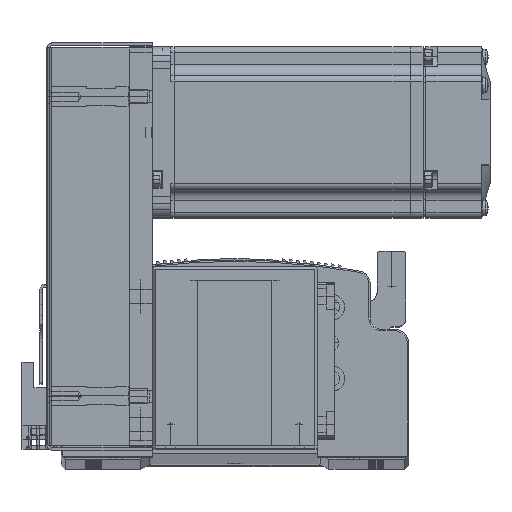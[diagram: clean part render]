
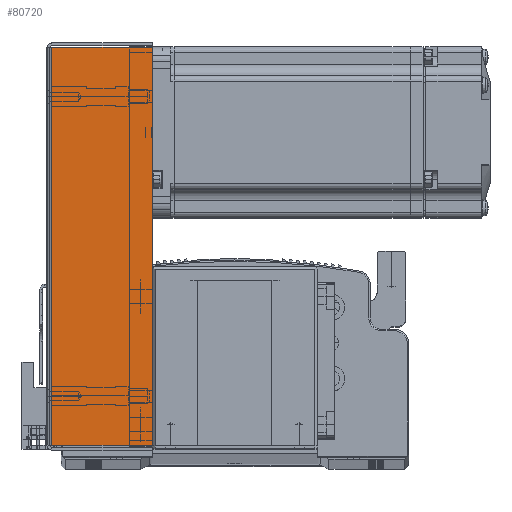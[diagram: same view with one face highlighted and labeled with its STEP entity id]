
A CAD part, top view. The second image highlights one B-rep face of the part: STEP entity #80720.
In plain terms, the highlighted planar face has unit normal (0, 0, 1) as drawn and (0, 0, -1) by its records, which use the part's own axes.
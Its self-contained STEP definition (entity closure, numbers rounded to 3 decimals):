
#2330 = LINE ( 'NONE', #65451, #2382 ) ;
#2335 = LINE ( 'NONE', #65088, #2387 ) ;
#2378 = LINE ( 'NONE', #65239, #2381 ) ;
#2381 = VECTOR ( 'NONE', #65240, 1000. ) ;
#2382 = VECTOR ( 'NONE', #65504, 1000. ) ;
#2387 = VECTOR ( 'NONE', #65009, 1000. ) ;
#2621 = LINE ( 'NONE', #44391, #2640 ) ;
#2640 = VECTOR ( 'NONE', #44383, 1000. ) ;
#36582 = DIRECTION ( 'NONE',  ( 0., -1., 0. ) ) ;
#36615 = PLANE ( 'NONE',  #57301 ) ;
#36620 = CARTESIAN_POINT ( 'NONE',  ( 0., 0., -33.5 ) ) ;
#36661 = DIRECTION ( 'NONE',  ( 0., 0., 1. ) ) ;
#38166 = VERTEX_POINT ( 'NONE', #64601 ) ;
#38186 = VERTEX_POINT ( 'NONE', #64485 ) ;
#38215 = VERTEX_POINT ( 'NONE', #64598 ) ;
#38283 = VERTEX_POINT ( 'NONE', #64654 ) ;
#43584 = EDGE_CURVE ( 'NONE', #38166, #38215, #2335, .T. ) ;
#43623 = EDGE_CURVE ( 'NONE', #38283, #38186, #2378, .T. ) ;
#43645 = EDGE_CURVE ( 'NONE', #38283, #38166, #2330, .T. ) ;
#43708 = EDGE_CURVE ( 'NONE', #38186, #38215, #2621, .T. ) ;
#44383 = DIRECTION ( 'NONE',  ( 1., 0., 0. ) ) ;
#44391 = CARTESIAN_POINT ( 'NONE',  ( 0., 36., -33.5 ) ) ;
#48821 = FACE_OUTER_BOUND ( 'NONE', #58887, .T. ) ;
#57301 = AXIS2_PLACEMENT_3D ( 'NONE', #36620, #36661, #36582 ) ;
#58887 = EDGE_LOOP ( 'NONE', ( #86381, #86326, #86331, #86394 ) ) ;
#64485 = CARTESIAN_POINT ( 'NONE',  ( -69.793, 36., -33.5 ) ) ;
#64598 = CARTESIAN_POINT ( 'NONE',  ( 69.793, 36., -33.5 ) ) ;
#64601 = CARTESIAN_POINT ( 'NONE',  ( 69.793, 0.737, -33.5 ) ) ;
#64654 = CARTESIAN_POINT ( 'NONE',  ( -69.793, 0.737, -33.5 ) ) ;
#65009 = DIRECTION ( 'NONE',  ( 0., 1., 0. ) ) ;
#65088 = CARTESIAN_POINT ( 'NONE',  ( 69.793, 0., -33.5 ) ) ;
#65239 = CARTESIAN_POINT ( 'NONE',  ( -69.793, 0., -33.5 ) ) ;
#65240 = DIRECTION ( 'NONE',  ( 0., 1., 0. ) ) ;
#65451 = CARTESIAN_POINT ( 'NONE',  ( 71.5, 0.737, -33.5 ) ) ;
#65504 = DIRECTION ( 'NONE',  ( 1., 0., 0. ) ) ;
#80720 = ADVANCED_FACE ( 'NONE', ( #48821 ), #36615, .F. ) ;
#86326 = ORIENTED_EDGE ( 'NONE', *, *, #43623, .T. ) ;
#86331 = ORIENTED_EDGE ( 'NONE', *, *, #43708, .T. ) ;
#86381 = ORIENTED_EDGE ( 'NONE', *, *, #43645, .F. ) ;
#86394 = ORIENTED_EDGE ( 'NONE', *, *, #43584, .F. ) ;
